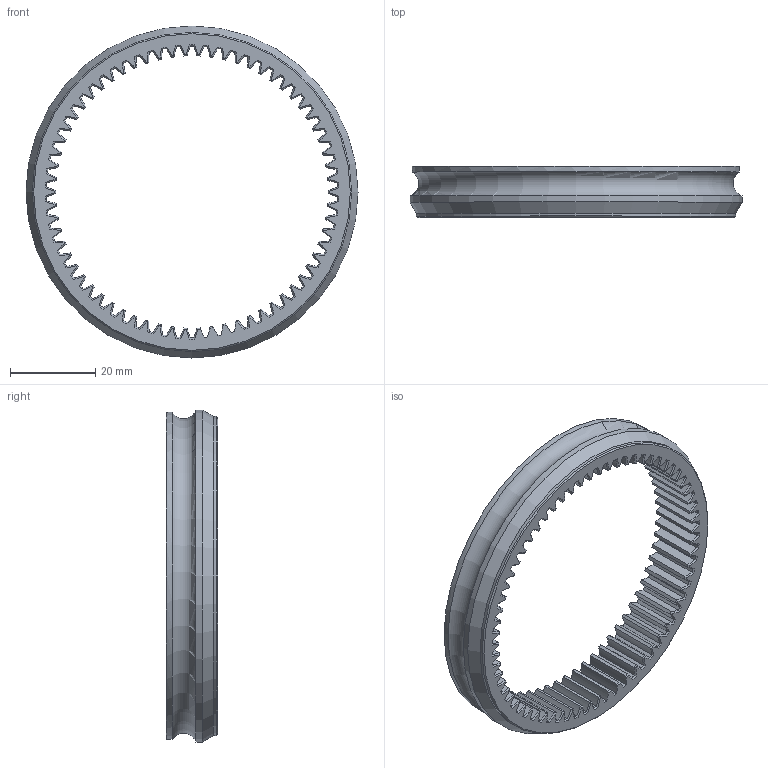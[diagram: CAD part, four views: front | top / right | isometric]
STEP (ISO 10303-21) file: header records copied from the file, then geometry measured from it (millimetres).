
FILE_DESCRIPTION(/* description */ (''),/* implementation_level */ '2;1');
FILE_NAME(/* name */ '\\192.168.3.8\kumagai\Develop\CAD\NakataOmni\DriveUnitR3\InternalGear_C.stp',/* time_stamp */ '2024-05-20T18:33:13+09:00',/* author */ ('kumagai'),/* organization */ (''),/* preprocessor_version */ 'ST-DEVELOPER v19',/* originating_system */ 'Autodesk Inventor 2023',/* authorisation */ '');
FILE_SCHEMA (('AUTOMOTIVE_DESIGN { 1 0 10303 214 3 1 1 }'));
Length unit declared in the file: millimetre
Products named in the file (1): InternalGear_C
Bounding box: 78 x 12 x 78 mm (x, y, z)
Volume: 12650.6 mm3; surface area: 10365.2 mm2
Topology: 1 solids, 1 shells, 528 faces, 1325 edges, 799 vertices
Faces by surface type: cylinder 268, cone 257, plane 2, torus 1
Full cylindrical faces by diameter (mm): 75 x1, 78 x1
Entity records: 16492 total; most frequent: CARTESIAN_POINT 3445, DIRECTION 2918, ORIENTED_EDGE 2650, EDGE_CURVE 1325, AXIS2_PLACEMENT_3D 1324, VERTEX_POINT 799, CIRCLE 795, EDGE_LOOP 530
